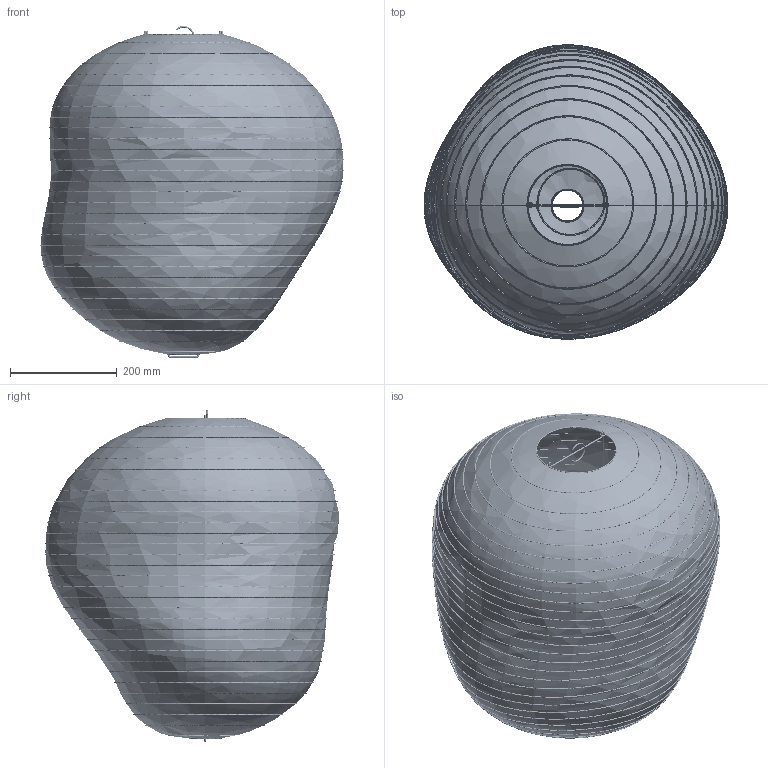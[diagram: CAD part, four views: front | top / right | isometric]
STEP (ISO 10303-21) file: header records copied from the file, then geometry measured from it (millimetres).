
FILE_DESCRIPTION(/* description */ (''),/* implementation_level */ '2;1');
FILE_NAME(/* name */ 'Kurbis_Lampshade_60_3D',/* time_stamp */ '2023-07-20T14:04:16+02:00',/* author */ (''),/* organization */ (''),/* preprocessor_version */ 'ST-DEVELOPER v16.5',/* originating_system */ 'Rhino 7.31',/* authorisation */ '');
FILE_SCHEMA (('CONFIG_CONTROL_DESIGN'));
Length unit declared in the file: millimetre
Products named in the file (1): Document
Bounding box: 569.9 x 552.27 x 622.54 mm (x, y, z)
Volume: 190796.1 mm3; surface area: 1485467.7 mm2
Topology: 50 solids, 58 shells, 280 faces, 578 edges, 296 vertices
Faces by surface type: bspline 266, cylinder 14
Entity records: 56684 total; most frequent: CARTESIAN_POINT 53597, ORIENTED_EDGE 1116, EDGE_CURVE 574, VERTEX_POINT 296, ADVANCED_FACE 280, FACE_OUTER_BOUND 280, EDGE_LOOP 280, MANIFOLD_SOLID_BREP 50
